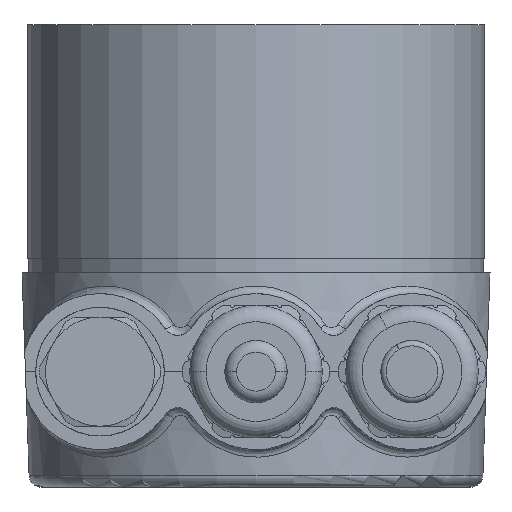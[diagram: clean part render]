
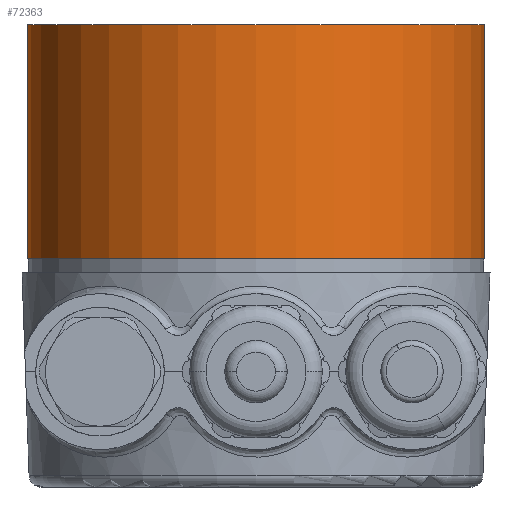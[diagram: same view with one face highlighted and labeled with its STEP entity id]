
A CAD part, front view. The second image highlights one B-rep face of the part: STEP entity #72363.
In plain terms, the highlighted cylindrical face has radius 29.3 mm (diameter 58.6 mm), a partial arc.
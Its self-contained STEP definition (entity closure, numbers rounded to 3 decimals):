
#2052 = AXIS2_PLACEMENT_3D ( 'NONE', #23340, #48567, #29982 ) ;
#4006 = DIRECTION ( 'NONE',  ( 1., 0., 0. ) ) ;
#4102 = VECTOR ( 'NONE', #55343, 1000. ) ;
#5343 = EDGE_LOOP ( 'NONE', ( #5619, #67049, #49088, #36787 ) ) ;
#5619 = ORIENTED_EDGE ( 'NONE', *, *, #80848, .F. ) ;
#10506 = VERTEX_POINT ( 'NONE', #81391 ) ;
#10681 = CIRCLE ( 'NONE', #29192, 29.3 ) ;
#16108 = CARTESIAN_POINT ( 'NONE',  ( 0., 0., 59.25 ) ) ;
#19467 = CARTESIAN_POINT ( 'NONE',  ( 29.3, 0., 59.25 ) ) ;
#20208 = VERTEX_POINT ( 'NONE', #19467 ) ;
#21476 = EDGE_CURVE ( 'NONE', #27390, #10506, #10681, .T. ) ;
#23340 = CARTESIAN_POINT ( 'NONE',  ( 0., 0., 59.25 ) ) ;
#25007 = FACE_OUTER_BOUND ( 'NONE', #5343, .T. ) ;
#25315 = AXIS2_PLACEMENT_3D ( 'NONE', #16108, #41402, #70037 ) ;
#26167 = CARTESIAN_POINT ( 'NONE',  ( 29.3, 0., 59.25 ) ) ;
#27390 = VERTEX_POINT ( 'NONE', #62612 ) ;
#29192 = AXIS2_PLACEMENT_3D ( 'NONE', #60759, #79949, #4006 ) ;
#29982 = DIRECTION ( 'NONE',  ( 1., 0., 0. ) ) ;
#34022 = DIRECTION ( 'NONE',  ( 0., 0., -1. ) ) ;
#34424 = CARTESIAN_POINT ( 'NONE',  ( -29.3, 0., 59.25 ) ) ;
#36787 = ORIENTED_EDGE ( 'NONE', *, *, #49951, .F. ) ;
#41402 = DIRECTION ( 'NONE',  ( 0., 0., 1. ) ) ;
#47078 = EDGE_CURVE ( 'NONE', #48991, #27390, #81207, .T. ) ;
#48567 = DIRECTION ( 'NONE',  ( 0., 0., -1. ) ) ;
#48991 = VERTEX_POINT ( 'NONE', #34424 ) ;
#49088 = ORIENTED_EDGE ( 'NONE', *, *, #21476, .T. ) ;
#49951 = EDGE_CURVE ( 'NONE', #20208, #10506, #58863, .T. ) ;
#50391 = CIRCLE ( 'NONE', #25315, 29.3 ) ;
#55343 = DIRECTION ( 'NONE',  ( 0., 0., -1. ) ) ;
#58863 = LINE ( 'NONE', #26167, #78696 ) ;
#60759 = CARTESIAN_POINT ( 'NONE',  ( 0., 0., 29.25 ) ) ;
#62612 = CARTESIAN_POINT ( 'NONE',  ( -29.3, 0., 29.25 ) ) ;
#67049 = ORIENTED_EDGE ( 'NONE', *, *, #47078, .T. ) ;
#70037 = DIRECTION ( 'NONE',  ( -1., 0., 0. ) ) ;
#72363 = ADVANCED_FACE ( 'NONE', ( #25007 ), #80289, .T. ) ;
#74534 = CARTESIAN_POINT ( 'NONE',  ( -29.3, 0., 59.25 ) ) ;
#78696 = VECTOR ( 'NONE', #34022, 1000. ) ;
#79949 = DIRECTION ( 'NONE',  ( 0., 0., 1. ) ) ;
#80289 = CYLINDRICAL_SURFACE ( 'NONE', #2052, 29.3 ) ;
#80848 = EDGE_CURVE ( 'NONE', #48991, #20208, #50391, .T. ) ;
#81207 = LINE ( 'NONE', #74534, #4102 ) ;
#81391 = CARTESIAN_POINT ( 'NONE',  ( 29.3, 0., 29.25 ) ) ;
